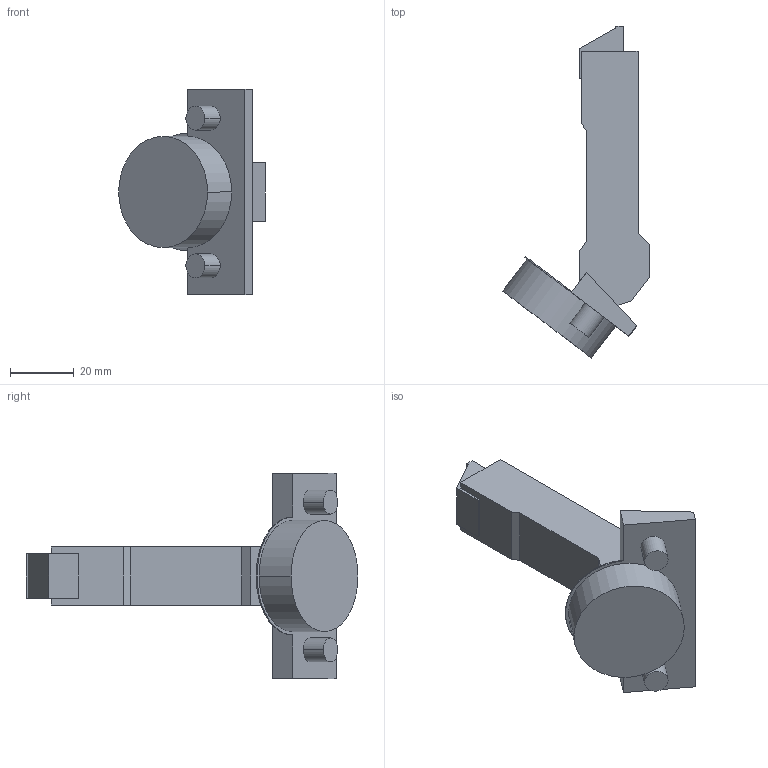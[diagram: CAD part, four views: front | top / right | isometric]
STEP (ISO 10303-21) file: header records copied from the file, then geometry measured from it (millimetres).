
FILE_DESCRIPTION (( 'STEP AP214' ), '1' );
FILE_NAME ('Scharnier T Impresso 110°_+37° MB_BB, aufliegend.step', '2010-12-13T10:21:03', ( 'grass' ), ( '' ), 'SwSTEP 2.0', 'SolidWorks 2010', '' );
FILE_SCHEMA (( 'AUTOMOTIVE_DESIGN' ));
Length unit declared in the file: millimetre
Products named in the file (1): Scharnier T Impresso 110°_+37° MB_BB, aufliegend
Bounding box: 46.13 x 104.41 x 64.5 mm (x, y, z)
Volume: 47276.9 mm3; surface area: 12975.8 mm2
Topology: 1 solids, 3 shells, 58 faces, 138 edges, 92 vertices
Faces by surface type: plane 41, cylinder 17
Entity records: 1706 total; most frequent: DIRECTION 290, CARTESIAN_POINT 289, ORIENTED_EDGE 276, EDGE_CURVE 138, VECTOR 104, LINE 104, AXIS2_PLACEMENT_3D 93, VERTEX_POINT 92
